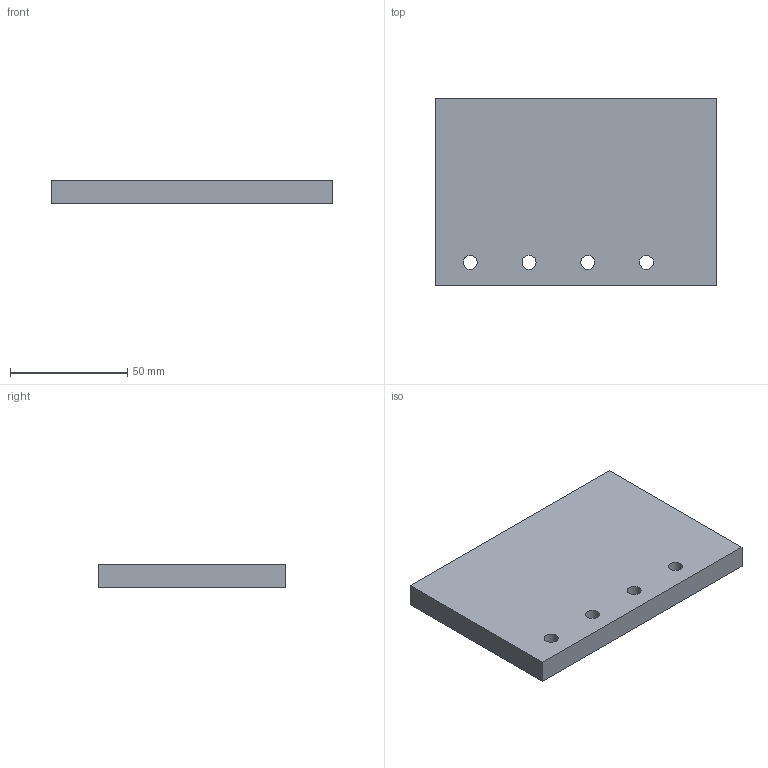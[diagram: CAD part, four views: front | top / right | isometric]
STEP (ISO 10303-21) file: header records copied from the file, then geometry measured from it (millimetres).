
FILE_DESCRIPTION(('FreeCAD Model'),'2;1');
FILE_NAME('Open CASCADE Shape Model','2026-09-11T22:23:41',('FreeCAD'),( 'FreeCAD'),'Open CASCADE STEP processor 7.8','FreeCAD','Unknown');
FILE_SCHEMA(('AUTOMOTIVE_DESIGN { 1 0 10303 214 1 1 1 1 }'));
Length unit declared in the file: millimetre
Products named in the file (1): Open CASCADE STEP translator 7.8 7
Bounding box: 120 x 80 x 10 mm (x, y, z)
Volume: 94869 mm3; surface area: 23727.8 mm2
Topology: 1 solids, 1 shells, 10 faces, 24 edges, 16 vertices
Faces by surface type: plane 6, cylinder 4
Full cylindrical faces by diameter (mm): 6 x4
Entity records: 322 total; most frequent: DIRECTION 54, CARTESIAN_POINT 51, ORIENTED_EDGE 48, EDGE_CURVE 24, AXIS2_PLACEMENT_3D 19, FACE_BOUND 18, EDGE_LOOP 18, VERTEX_POINT 16
